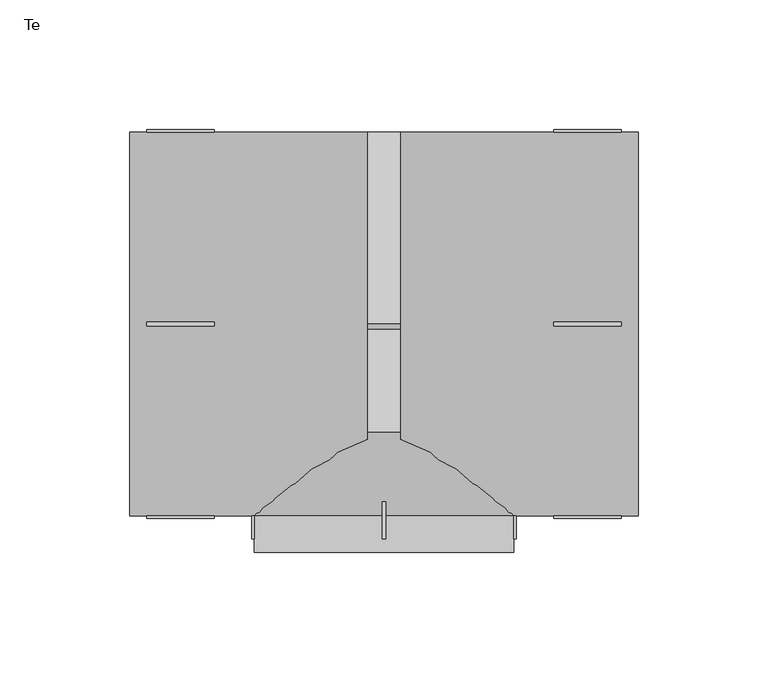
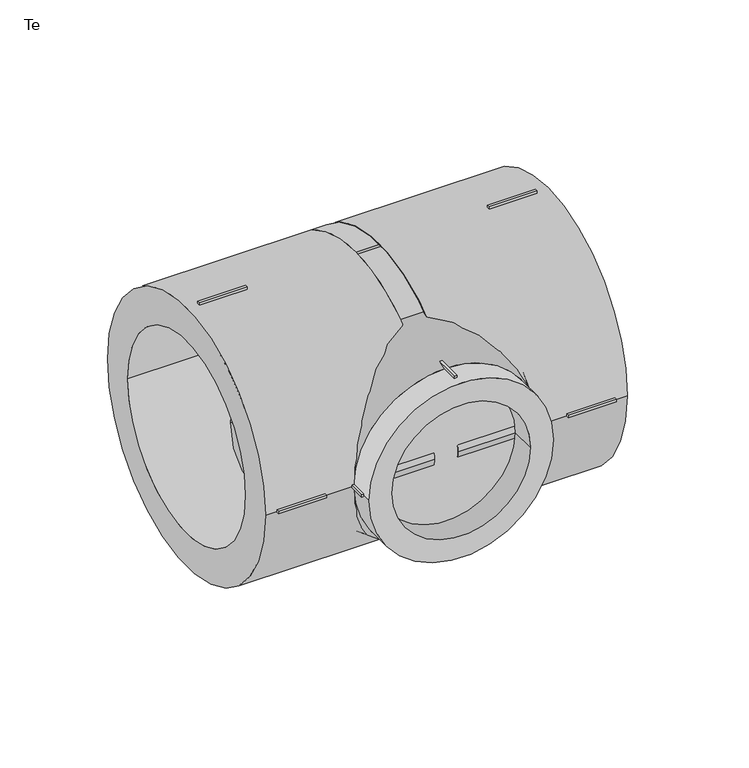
"""IFC4 building model written with IfcOpenShell, lengths in millimetres: pipe fitting geometry, EGB_VASEN_ PPR_Te WXR300_Te reducida WXR310 : Te."""

from ifc_helpers import new_model, si_unit, point, frame, origin, origin_2d, place, context, project, spatial, polyline, circle_curve, trimmed, segment, composite_curve, outline, extrude, source, transform, mapped, element, save
from ifc_brep_helpers import plane_surface, revolved_surface, advanced_brep


def te_a9083d1c(model_context):
    return source(origin(), model_context, "Body", "SolidModel", [
        extrude(outline(polyline([(-0.75, -62.0), (0.75, -62.0), (0.75, -82.8), (-0.75, -82.8), (-0.75, -62.0)])), frame((0.0, 0.0, 49.0), z_axis=(0.0, 0.0, 1.0), x_axis=(1.0, 0.0, 0.0)), (0.0, 0.0, 1.0), 2.0),
        extrude(outline(polyline([(-0.75, -62.0), (0.75, -62.0), (0.75, -82.8), (-0.75, -82.8), (-0.75, -62.0)])), frame((0.0, 0.0, -51.0), z_axis=(0.0, 0.0, 1.0), x_axis=(1.0, 0.0, 0.0)), (0.0, 0.0, 1.0), 2.0),
        extrude(outline(polyline([(49.0, -62.0), (51.0, -62.0), (51.0, -82.8), (49.0, -82.8), (49.0, -62.0)])), frame((0.0, 0.0, -0.75), z_axis=(0.0, 0.0, 1.0), x_axis=(1.0, 0.0, 0.0)), (0.0, 0.0, 1.0), 1.5),
        extrude(outline(polyline([(-51.0, -62.0), (-49.0, -62.0), (-49.0, -82.8), (-51.0, -82.8), (-51.0, -62.0)])), frame((0.0, 0.0, -0.75), z_axis=(0.0, 0.0, 1.0), x_axis=(1.0, 0.0, 0.0)), (0.0, 0.0, 1.0), 1.5),
        extrude(outline(polyline([(65.5, -0.75), (65.5, 0.75), (91.5, 0.75), (91.5, -0.75), (65.5, -0.75)])), frame((0.0, 0.0, 73.0), z_axis=(0.0, 0.0, 1.0), x_axis=(1.0, 0.0, 0.0)), (0.0, 0.0, 1.0), 2.0),
        extrude(outline(polyline([(65.5, -0.75), (65.5, 0.75), (91.5, 0.75), (91.5, -0.75), (65.5, -0.75)])), frame((0.0, 0.0, -75.0), z_axis=(0.0, 0.0, 1.0), x_axis=(1.0, 0.0, 0.0)), (0.0, 0.0, 1.0), 2.0),
        extrude(outline(polyline([(65.5, 73.0), (65.5, 75.0), (91.5, 75.0), (91.5, 73.0), (65.5, 73.0)])), frame((0.0, 0.0, -0.75), z_axis=(0.0, 0.0, 1.0), x_axis=(1.0, 0.0, 0.0)), (0.0, 0.0, 1.0), 1.5),
        extrude(outline(polyline([(65.5, -75.0), (65.5, -73.0), (91.5, -73.0), (91.5, -75.0), (65.5, -75.0)])), frame((0.0, 0.0, -0.75), z_axis=(0.0, 0.0, 1.0), x_axis=(1.0, 0.0, 0.0)), (0.0, 0.0, 1.0), 1.5),
        extrude(outline(polyline([(-65.5, 0.75), (-65.5, -0.75), (-91.5, -0.75), (-91.5, 0.75), (-65.5, 0.75)])), frame((0.0, 0.0, 73.0), z_axis=(0.0, 0.0, 1.0), x_axis=(1.0, 0.0, 0.0)), (0.0, 0.0, 1.0), 2.0),
        extrude(outline(polyline([(-65.5, 0.75), (-65.5, -0.75), (-91.5, -0.75), (-91.5, 0.75), (-65.5, 0.75)])), frame((0.0, 0.0, -75.0), z_axis=(0.0, 0.0, 1.0), x_axis=(1.0, 0.0, 0.0)), (0.0, 0.0, 1.0), 2.0),
        extrude(outline(polyline([(-65.5, 75.0), (-65.5, 73.0), (-91.5, 73.0), (-91.5, 75.0), (-65.5, 75.0)])), frame((0.0, 0.0, -0.75), z_axis=(0.0, 0.0, 1.0), x_axis=(1.0, 0.0, 0.0)), (0.0, 0.0, 1.0), 1.5),
        extrude(outline(polyline([(-65.5, -73.0), (-65.5, -75.0), (-91.5, -75.0), (-91.5, -73.0), (-65.5, -73.0)])), frame((0.0, 0.0, -0.75), z_axis=(0.0, 0.0, 1.0), x_axis=(1.0, 0.0, 0.0)), (0.0, 0.0, 1.0), 1.5),
        extrude(outline(composite_curve([segment(trimmed(circle_curve(origin_2d(), 50.0), [point((0.0, 50.0))], [point((0.0, -50.0))], False, "CARTESIAN"), True, "CONTINUOUS"), segment(trimmed(circle_curve(origin_2d(), 50.0), [point((0.0, -50.0))], [point((0.0, 50.0))], False, "CARTESIAN"), True, "CONTINUOUS")], self_intersect=False), holes=[composite_curve([segment(trimmed(circle_curve(origin_2d(), 37.5), [point((0.0, 37.5))], [point((0.0, -37.5))], True, "CARTESIAN"), True, "CONTINUOUS"), segment(trimmed(circle_curve(origin_2d(), 37.5), [point((0.0, -37.5))], [point((0.0, 37.5))], True, "CARTESIAN"), True, "CONTINUOUS")], self_intersect=False)]), frame((0.0, -88.0, 0.0), z_axis=(0.0, 1.0, 0.0), x_axis=(0.0, 0.0, 1.0)), (0.0, 0.0, 1.0), 14.0),
        extrude(outline(composite_curve([segment(trimmed(circle_curve(origin_2d(), 74.0), [point((-74.0, 0.0))], [point((74.0, 0.0))], False, "CARTESIAN"), True, "CONTINUOUS"), segment(trimmed(circle_curve(origin_2d(), 74.0), [point((74.0, 0.0))], [point((-74.0, 0.0))], False, "CARTESIAN"), True, "CONTINUOUS")], self_intersect=False), holes=[composite_curve([segment(trimmed(circle_curve(origin_2d(), 55.0), [point((-55.0, 0.0))], [point((55.0, 0.0))], True, "CARTESIAN"), True, "CONTINUOUS"), segment(trimmed(circle_curve(origin_2d(), 55.0), [point((55.0, 0.0))], [point((-55.0, 0.0))], True, "CARTESIAN"), True, "CONTINUOUS")], self_intersect=False)]), frame((6.44, 0.0, 0.0), z_axis=(1.0, 0.0, 0.0), x_axis=(0.0, 1.0, 0.0)), (0.0, 0.0, 1.0), 91.56),
        extrude(outline(composite_curve([segment(trimmed(circle_curve(origin_2d(), 74.0), [point((-74.0, 0.0))], [point((74.0, 0.0))], False, "CARTESIAN"), True, "CONTINUOUS"), segment(trimmed(circle_curve(origin_2d(), 74.0), [point((74.0, 0.0))], [point((-74.0, 0.0))], False, "CARTESIAN"), True, "CONTINUOUS")], self_intersect=False), holes=[composite_curve([segment(trimmed(circle_curve(origin_2d(), 55.0), [point((-55.0, 0.0))], [point((55.0, 0.0))], True, "CARTESIAN"), True, "CONTINUOUS"), segment(trimmed(circle_curve(origin_2d(), 55.0), [point((55.0, 0.0))], [point((-55.0, 0.0))], True, "CARTESIAN"), True, "CONTINUOUS")], self_intersect=False)]), frame((-98.0, 0.0, 0.0), z_axis=(1.0, 0.0, 0.0), x_axis=(0.0, 1.0, 0.0)), (0.0, 0.0, 1.0), 91.56),
        advanced_brep(
        [(74.0, 0.0, 0.0), (-74.0, 0.0, 0.0), (50.0, -74.0, 0.0), (-50.0, -74.0, 0.0)],
        [
            (0, 1, circle_curve(frame((0.0, 0.0, 0.0), z_axis=(0.0, 1.0, 0.0), x_axis=(1.0, 0.0, 0.0)), 74.0)),
            (1, 0, circle_curve(frame((0.0, 0.0, 0.0), z_axis=(0.0, 1.0, 0.0), x_axis=(-1.0, 0.0, 0.0)), 74.0)),
            (2, 3, circle_curve(frame((0.0, -74.0, 0.0), z_axis=(0.0, -1.0, 0.0), x_axis=(-1.0, 0.0, 0.0)), 50.0)),
            (3, 2, circle_curve(frame((0.0, -74.0, 0.0), z_axis=(0.0, -1.0, 0.0), x_axis=(1.0, 0.0, 0.0)), 50.0)),
            (3, 1),
            (0, 2),
        ],
        [
            plane_surface(frame((0.0, 0.0, 0.0), z_axis=(0.0, 1.0, 0.0), x_axis=(0.0, 0.0, -1.0))),
            plane_surface(frame((0.0, -74.0, 0.0), z_axis=(0.0, -1.0, 0.0), x_axis=(0.0, 0.0, -1.0))),
            revolved_surface(polyline([(-50.00000000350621, -74.0, 0.0), (-74.0, 0.0, 0.0)]), (0.0, -228.1666667, 0.0), (0.0, 1.0, 0.0)),
            revolved_surface(polyline([(50.00000000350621, -74.0, 0.0), (74.0, 0.0, 0.0)]), (0.0, -228.1666667, 0.0), (0.0, 1.0, 0.0)),
        ],
        [
            (0, [[1, 2]]),
            (1, [[3, 4]]),
            (2, [[-4, 5, -1, 6]]),
            (3, [[-3, -6, -2, -5]]),
        ],
    ),
        extrude(outline(composite_curve([segment(trimmed(circle_curve(origin_2d(), 74.0), [point((-74.0, 0.0))], [point((74.0, 0.0))], False, "CARTESIAN"), True, "CONTINUOUS"), segment(trimmed(circle_curve(origin_2d(), 74.0), [point((74.0, 0.0))], [point((-74.0, 0.0))], False, "CARTESIAN"), True, "CONTINUOUS")], self_intersect=False)), frame((-6.44, 0.0, 0.0), z_axis=(1.0, 0.0, 0.0), x_axis=(0.0, 1.0, 0.0)), (0.0, 0.0, 1.0), 12.88),
    ])


if __name__ == "__main__":
    model = new_model("IFC4")
    model_context = context("Model", 3, world=origin())
    ifc_project = project(units=[si_unit("LENGTHUNIT", "METRE", prefix="MILLI")], contexts=[model_context])
    site = spatial("IfcSite", under=ifc_project)
    building = spatial("IfcBuilding", under=site)
    placement = place(None, origin())
    te_shape = te_a9083d1c(model_context)
    element("IfcPipeFitting", 1, ObjectType="EGB_VASEN_ PPR_Te WXR300_Te reducida WXR310 : Te", at=placement, inside=building, context=model_context, shape_type="MappedRepresentation", body=[
        mapped(te_shape, transform((0.0, 0.0, 0.0), x_axis=(1.0, 0.0, 0.0), y_axis=(0.0, 1.0, 0.0), z_axis=(0.0, 0.0, 1.0))),
    ])
    save(model, "model.ifc")
